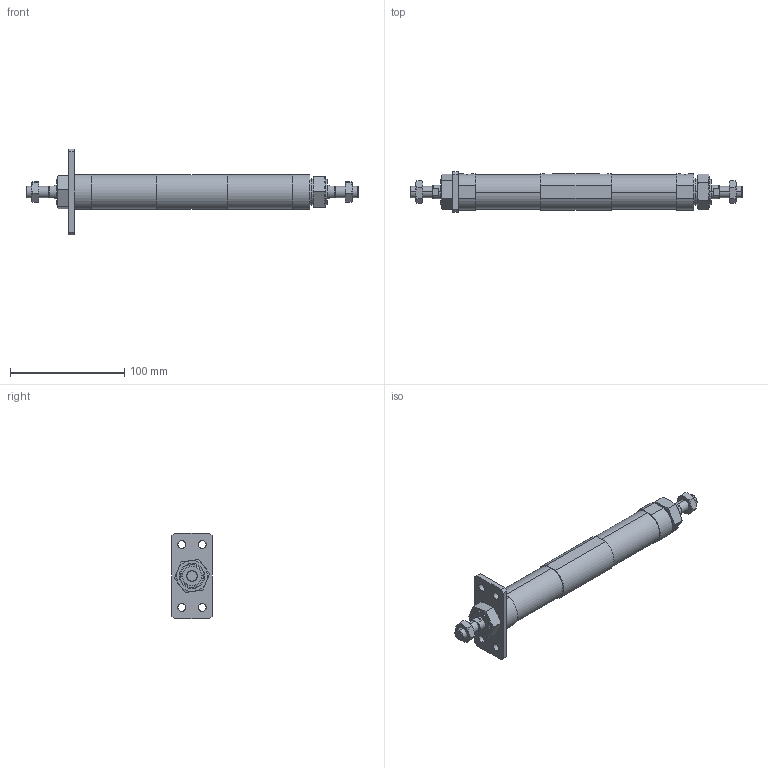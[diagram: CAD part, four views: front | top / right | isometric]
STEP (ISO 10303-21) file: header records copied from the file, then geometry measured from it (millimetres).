
FILE_DESCRIPTION (( 'STEP AP203' ), '1' );
FILE_NAME ('JGD7-25-25-25-A.STEP', '2016-04-19T07:22:23', ( '' ), ( '' ), 'SwSTEP 2.0', 'SolidWorks 2014', '' );
FILE_SCHEMA (( 'CONFIG_CONTROL_DESIGN' ));
Length unit declared in the file: millimetre
Products named in the file (7): M22x1.5-10mm; 25-25; JGD2-25MI; J#2-25-A; JGLH2-25B; JGD7-25-25-25-A; M10x1.5-6mm
Assembly tree (10 placements, depth 2):
  JGD7-25-25-25-A
    JGLH2-25B  x2
    25-25  x2
    JGD2-25MI
    M10x1.5-6mm  x2
    M22x1.5-10mm  x2
    J#2-25-A
Bounding box: 290 x 35 x 75 mm (x, y, z)
Volume: 181771.3 mm3; surface area: 45413.4 mm2
Topology: 10 solids, 10 shells, 192 faces, 430 edges, 260 vertices
Faces by surface type: plane 76, cylinder 52, torus 48, cone 16
Entity records: 4387 total; most frequent: CARTESIAN_POINT 1025, DIRECTION 540, ORIENTED_EDGE 504, EDGE_CURVE 252, AXIS2_PLACEMENT_3D 220, VERTEX_POINT 157, EDGE_LOOP 133, ADVANCED_FACE 113
